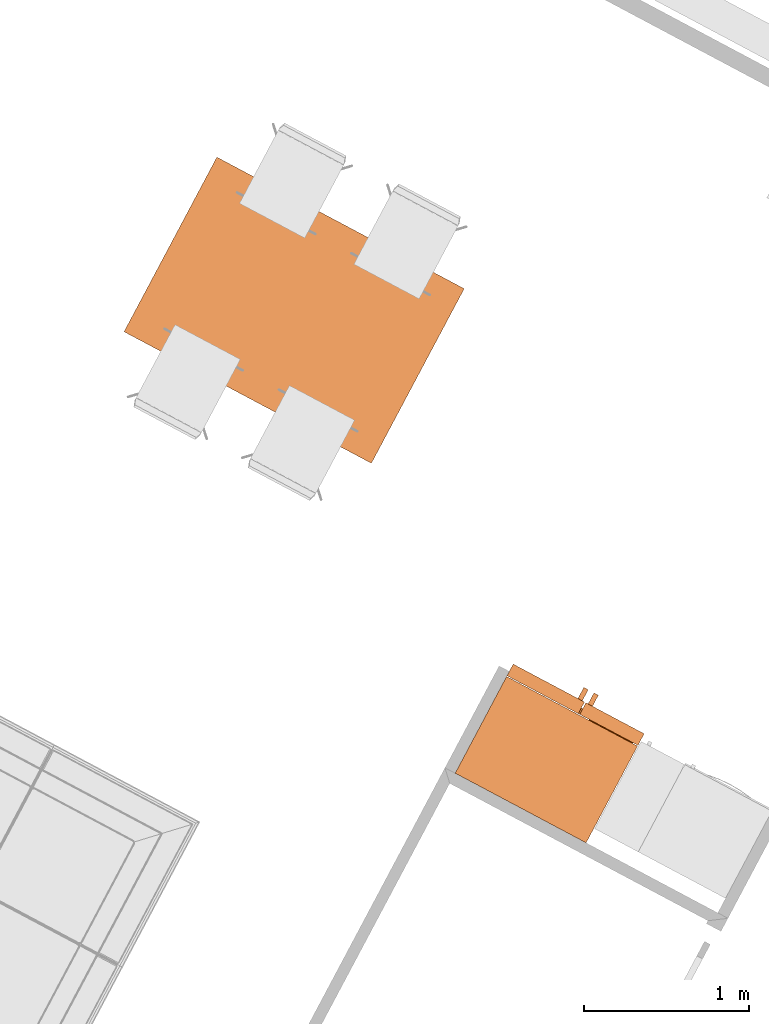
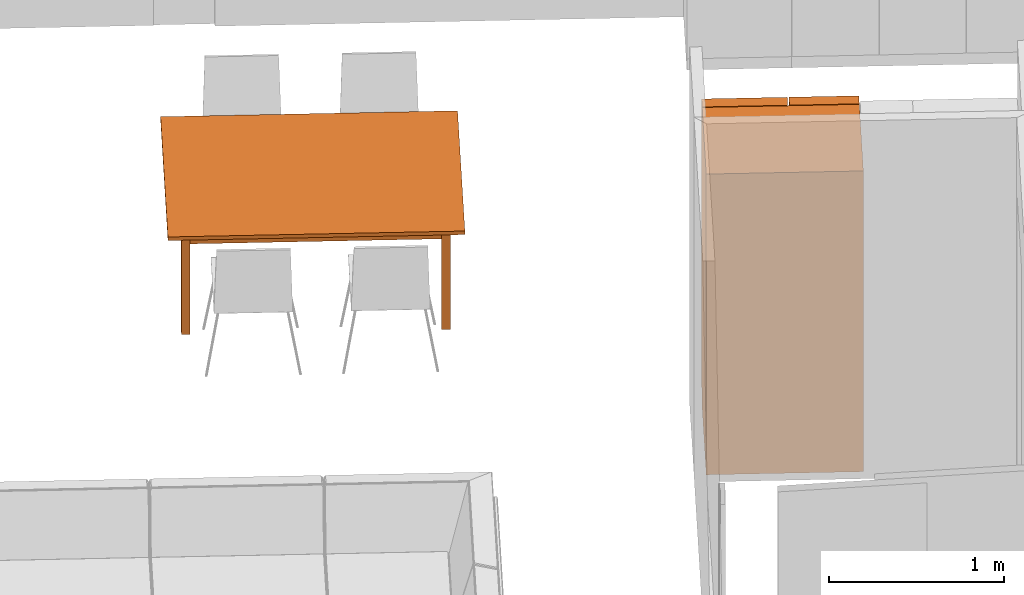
# One storey, part 19 of 27: 2 proxies.
"""IFC2X3 building model written with IfcOpenShell, lengths in metres."""

from ifc_helpers import new_model, entity, si_unit, converted_unit, derived_unit, money_unit, direction, frame, origin_with_axes, place, context, subcontext, project, spatial, faceted_brep, type_object, element, save


model = new_model("IFC2X3")

# Units and contexts
model_context = context("Model", 3, precision=1e-05, world=origin_with_axes(), true_north=direction((0.0, 1.0)))
body_context = subcontext(model_context, "Body", "Model", "MODEL_VIEW")
ifc_project = project(units=[si_unit("LENGTHUNIT", "METRE"), si_unit("AREAUNIT", "SQUARE_METRE"), si_unit("VOLUMEUNIT", "CUBIC_METRE"), converted_unit("PLANEANGLEUNIT", "DEGREE", entity("IfcPlaneAngleMeasure", 0.0174532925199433), si_unit("PLANEANGLEUNIT", "RADIAN"), dimensions=[0, 0, 0, 0, 0, 0, 0]), money_unit("CHF"), converted_unit("TIMEUNIT", "Year", entity("IfcTimeMeasure", 31557600.0), si_unit("TIMEUNIT", "SECOND"), dimensions=[0, 0, 1, 0, 0, 0, 0]), si_unit("MASSUNIT", "GRAM", prefix="KILO"), si_unit("THERMODYNAMICTEMPERATUREUNIT", "DEGREE_CELSIUS"), si_unit("LUMINOUSINTENSITYUNIT", "LUMEN"), si_unit("ENERGYUNIT", "JOULE", prefix="MEGA"), derived_unit("THERMALCONDUCTANCEUNIT", [(si_unit("POWERUNIT", "WATT"), 1), (si_unit("LENGTHUNIT", "METRE"), -1), (si_unit("THERMODYNAMICTEMPERATUREUNIT", "KELVIN"), -1)]), derived_unit("SPECIFICHEATCAPACITYUNIT", [(si_unit("ENERGYUNIT", "JOULE"), 1), (si_unit("MASSUNIT", "GRAM", prefix="KILO"), -1), (si_unit("THERMODYNAMICTEMPERATUREUNIT", "KELVIN"), -1)]), derived_unit("MASSDENSITYUNIT", [(si_unit("MASSUNIT", "GRAM", prefix="KILO"), 1), (si_unit("VOLUMEUNIT", "CUBIC_METRE"), -1)])], contexts=[model_context])

# Site, building, storey
site_placement = place(None, frame((0.0, 0.0, 0.0), z_axis=(0.0, 0.0, 1.0), x_axis=(-0.4694715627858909, -0.8829475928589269, 0.0)))
site = spatial("IfcSite", under=ifc_project, at=site_placement, Name="Site", CompositionType="ELEMENT")
building_placement = place(site_placement, origin_with_axes())
building = spatial("IfcBuilding", under=site, at=building_placement, Name="Bâtiment", CompositionType="ELEMENT")
storey_placement = place(building_placement, origin_with_axes())
storey = spatial("IfcBuildingStorey", under=building, at=storey_placement, Name="RDC", CompositionType="ELEMENT", Elevation=0.0)

# Proxies
building_element_proxy_type_1 = type_object("IfcBuildingElementProxyType", Name="Table salle à manger 01 27", PredefinedType="NOTDEFINED")
proxy_1_placement = place(storey_placement, frame((137.177644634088, -834.7961562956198, 0.0), z_axis=(0.0, 0.0, 1.0), x_axis=(0.0, 1.0, 0.0)))
element("IfcBuildingElementProxy", 1, at=proxy_1_placement, inside=storey, type_object=building_element_proxy_type_1, Name="Obj.-483", context=body_context, shape_type="Brep", body=[
    faceted_brep([(0.13, 0.08, 0.0), (0.08, 0.08, 0.0), (0.08, 0.13, 0.0), (0.13, 0.13, 0.0), (0.13, 0.08, 0.715), (0.08, 0.08, 0.715), (0.08, 0.13, 0.715), (0.13, 0.13, 0.715)], [[[0, 1, 2, 3]], [[1, 0, 4, 5]], [[2, 1, 5, 6]], [[3, 2, 6, 7]], [[0, 3, 7, 4]], [[5, 4, 7, 6]]]),
    faceted_brep([(1.619999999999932, 0.08, 0.0), (1.569999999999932, 0.08, 0.0), (1.569999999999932, 0.13, 0.0), (1.619999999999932, 0.13, 0.0), (1.619999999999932, 0.08, 0.715), (1.569999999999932, 0.08, 0.715), (1.569999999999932, 0.13, 0.715), (1.619999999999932, 0.13, 0.715)], [[[0, 1, 2, 3]], [[1, 0, 4, 5]], [[2, 1, 5, 6]], [[3, 2, 6, 7]], [[0, 3, 7, 4]], [[5, 4, 7, 6]]]),
    faceted_brep([(0.13, 1.070000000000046, 0.0), (0.08, 1.070000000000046, 0.0), (0.08, 1.120000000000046, 0.0), (0.13, 1.120000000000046, 0.0), (0.13, 1.070000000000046, 0.715), (0.08, 1.070000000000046, 0.715), (0.08, 1.120000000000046, 0.715), (0.13, 1.120000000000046, 0.715)], [[[0, 1, 2, 3]], [[1, 0, 4, 5]], [[2, 1, 5, 6]], [[3, 2, 6, 7]], [[0, 3, 7, 4]], [[5, 4, 7, 6]]]),
    faceted_brep([(1.619999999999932, 1.070000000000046, 0.0), (1.569999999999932, 1.070000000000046, 0.0), (1.569999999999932, 1.120000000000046, 0.0), (1.619999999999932, 1.120000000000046, 0.0), (1.619999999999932, 1.070000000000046, 0.715), (1.569999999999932, 1.070000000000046, 0.715), (1.569999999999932, 1.120000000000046, 0.715), (1.619999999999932, 1.120000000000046, 0.715)], [[[0, 1, 2, 3]], [[1, 0, 4, 5]], [[2, 1, 5, 6]], [[3, 2, 6, 7]], [[0, 3, 7, 4]], [[5, 4, 7, 6]]]),
    faceted_brep([(1.699999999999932, 0.0, 0.715), (0.0, 0.0, 0.715), (0.0, 1.200000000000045, 0.715), (1.699999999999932, 1.200000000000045, 0.715), (1.699999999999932, 0.0, 0.74), (0.0, 0.0, 0.74), (0.0, 1.200000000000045, 0.74), (1.699999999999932, 1.200000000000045, 0.74)], [[[0, 1, 2, 3]], [[1, 0, 4, 5]], [[2, 1, 5, 6]], [[3, 2, 6, 7]], [[0, 3, 7, 4]], [[5, 4, 7, 6]]]),
    faceted_brep([(0.13, 0.105, 0.615), (1.569999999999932, 0.105, 0.615), (1.569999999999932, 0.105, 0.715), (0.13, 0.105, 0.715), (0.13, 0.13, 0.615), (0.155, 0.13, 0.615), (0.155, 0.155, 0.615), (1.544999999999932, 0.155, 0.615), (1.544999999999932, 0.13, 0.615), (1.569999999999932, 0.13, 0.615), (1.569999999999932, 0.13, 0.715), (1.544999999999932, 0.13, 0.715), (1.544999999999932, 0.155, 0.715), (0.155, 0.155, 0.715), (0.155, 0.13, 0.715), (0.13, 0.13, 0.715)], [[[0, 1, 2, 3]], [[0, 4, 5, 6, 7, 8, 9, 1]], [[1, 9, 10, 2]], [[3, 2, 10, 11, 12, 13, 14, 15]], [[4, 0, 3, 15]], [[5, 4, 15, 14]], [[6, 5, 14, 13]], [[7, 6, 13, 12]], [[8, 7, 12, 11]], [[9, 8, 11, 10]]]),
    faceted_brep([(0.155, 0.13, 0.615), (0.105, 0.13, 0.615), (0.105, 1.070000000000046, 0.615), (0.155, 1.070000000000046, 0.615), (0.155, 0.13, 0.715), (0.105, 0.13, 0.715), (0.105, 1.070000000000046, 0.715), (0.155, 1.070000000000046, 0.715)], [[[0, 1, 2, 3]], [[1, 0, 4, 5]], [[2, 1, 5, 6]], [[3, 2, 6, 7]], [[0, 3, 7, 4]], [[5, 4, 7, 6]]]),
    faceted_brep([(1.569999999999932, 1.095000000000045, 0.615), (0.1300000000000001, 1.095000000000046, 0.615), (0.1300000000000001, 1.095000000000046, 0.715), (1.569999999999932, 1.095000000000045, 0.715), (1.569999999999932, 1.070000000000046, 0.615), (1.544999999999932, 1.070000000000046, 0.615), (1.544999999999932, 1.045000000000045, 0.615), (0.155, 1.045000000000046, 0.615), (0.155, 1.070000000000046, 0.615), (0.1300000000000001, 1.070000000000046, 0.615), (0.1300000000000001, 1.070000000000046, 0.715), (0.155, 1.070000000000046, 0.715), (0.155, 1.045000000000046, 0.715), (1.544999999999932, 1.045000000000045, 0.715), (1.544999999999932, 1.070000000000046, 0.715), (1.569999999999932, 1.070000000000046, 0.715)], [[[0, 1, 2, 3]], [[0, 4, 5, 6, 7, 8, 9, 1]], [[1, 9, 10, 2]], [[3, 2, 10, 11, 12, 13, 14, 15]], [[4, 0, 3, 15]], [[5, 4, 15, 14]], [[6, 5, 14, 13]], [[7, 6, 13, 12]], [[8, 7, 12, 11]], [[9, 8, 11, 10]]]),
    faceted_brep([(1.544999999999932, 1.070000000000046, 0.615), (1.594999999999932, 1.070000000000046, 0.615), (1.594999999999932, 0.1300000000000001, 0.615), (1.544999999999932, 0.1300000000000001, 0.615), (1.544999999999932, 1.070000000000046, 0.715), (1.594999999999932, 1.070000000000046, 0.715), (1.594999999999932, 0.1300000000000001, 0.715), (1.544999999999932, 0.1300000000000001, 0.715)], [[[0, 1, 2, 3]], [[1, 0, 4, 5]], [[2, 1, 5, 6]], [[3, 2, 6, 7]], [[0, 3, 7, 4]], [[5, 4, 7, 6]]]),
])
building_element_proxy_type_2 = type_object("IfcBuildingElementProxyType", Name="Réfrigérateur 2 portes 27", PredefinedType="NOTDEFINED")
proxy_2_placement = place(storey_placement, frame((137.8495710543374, -830.8645991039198, 0.0), z_axis=(0.0, 0.0, 1.0), x_axis=(0.0, -1.0, 0.0)))
element("IfcBuildingElementProxy", 2, at=proxy_2_placement, inside=storey, type_object=building_element_proxy_type_2, Name="Obj.-482", context=body_context, shape_type="Brep", body=[
    faceted_brep([(0.9, 0.08500000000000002, 0.0), (0.9, 0.08500000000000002, 2.1), (0.0, 0.08500000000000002, 2.1), (0.0, 0.08500000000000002, 0.0), (0.04999999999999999, 0.08500000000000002, 0.13), (0.04999999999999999, 0.08500000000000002, 2.05), (0.85, 0.08500000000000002, 2.05), (0.85, 0.08500000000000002, 0.13), (0.9, 0.75, 0.0), (0.9, 0.75, 2.1), (0.0, 0.75, 2.1), (0.0, 0.75, 0.0), (0.04999999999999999, 0.67, 0.13), (0.04999999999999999, 0.6700000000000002, 2.05), (0.85, 0.6700000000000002, 2.05), (0.85, 0.67, 0.13)], [[[0, 1, 2, 3], [4, 5, 6, 7]], [[8, 9, 1, 0]], [[1, 9, 10, 2]], [[3, 2, 10, 11]], [[11, 8, 0, 3]], [[5, 4, 12, 13]], [[6, 5, 13, 14]], [[7, 6, 14, 15]], [[4, 7, 15, 12]], [[11, 10, 9, 8]], [[14, 13, 12, 15]]]),
    faceted_brep([(0.0, 0.08, 0.1), (0.4, 0.08, 0.1), (0.4, 0.0, 0.1), (0.0, 0.0, 0.1), (0.0, 0.08000000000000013, 2.1), (0.4, 0.08000000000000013, 2.1), (0.03500000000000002, 0.08000000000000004, 0.8), (0.335, 0.08000000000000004, 0.8), (0.335, 0.08000000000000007, 1.2), (0.03500000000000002, 0.08000000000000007, 1.2), (0.4, 0.0, 2.1), (0.0, 0.0, 2.1), (0.03500000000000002, 0.0, 0.8), (0.03500000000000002, 0.0, 1.2), (0.335, 0.0, 1.2), (0.335, 0.0, 0.8)], [[[0, 1, 2, 3]], [[0, 4, 5, 1], [6, 7, 8, 9]], [[1, 5, 10, 2]], [[3, 2, 10, 11], [12, 13, 14, 15]], [[4, 0, 3, 11]], [[5, 4, 11, 10]], [[7, 6, 12, 15]], [[8, 7, 15, 14]], [[9, 8, 14, 13]], [[6, 9, 13, 12]]]),
    faceted_brep([(0.9, 0.0, 0.1), (0.9, 0.08, 0.1), (0.9, 0.08, 2.1), (0.9, 0.0, 2.1), (0.41, 0.0, 0.1), (0.41, 0.08, 0.1), (0.41, 0.08, 2.1), (0.41, 0.0, 2.1)], [[[0, 1, 2, 3]], [[0, 4, 5, 1]], [[1, 5, 6, 2]], [[3, 2, 6, 7]], [[4, 0, 3, 7]], [[5, 4, 7, 6]]]),
    faceted_brep([(0.0, 0.04, 0.0), (0.9, 0.04, 0.0), (0.9, 0.04, 0.1), (0.0, 0.04, 0.1), (0.0, 0.08, 0.0), (0.9, 0.08, 0.0), (0.9, 0.08, 0.1), (0.0, 0.08, 0.1)], [[[0, 1, 2, 3]], [[0, 4, 5, 1]], [[1, 5, 6, 2]], [[3, 2, 6, 7]], [[4, 0, 3, 7]], [[5, 4, 7, 6]]]),
    faceted_brep([(0.03500000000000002, 0.01, 1.2), (0.335, 0.01, 1.2), (0.335, 0.16, 1.2), (0.03500000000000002, 0.16, 1.2), (0.03500000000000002, 0.01000000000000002, 0.8000000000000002), (0.335, 0.01000000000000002, 0.8000000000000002), (0.09500000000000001, 0.01000000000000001, 1.12), (0.275, 0.01000000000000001, 1.12), (0.275, 0.01000000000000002, 0.8800000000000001), (0.09500000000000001, 0.01000000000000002, 0.8800000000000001), (0.335, 0.1600000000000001, 0.8000000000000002), (0.03500000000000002, 0.1600000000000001, 0.8000000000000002), (0.09500000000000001, 0.16, 1.12), (0.09500000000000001, 0.1600000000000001, 0.8800000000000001), (0.275, 0.1600000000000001, 0.8800000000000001), (0.275, 0.16, 1.12)], [[[0, 1, 2, 3]], [[0, 4, 5, 1], [6, 7, 8, 9]], [[1, 5, 10, 2]], [[3, 2, 10, 11], [12, 13, 14, 15]], [[4, 0, 3, 11]], [[5, 4, 11, 10]], [[7, 6, 12, 15]], [[8, 7, 15, 14]], [[9, 8, 14, 13]], [[6, 9, 13, 12]]]),
    faceted_brep([(0.03500000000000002, 0.16, 0.8), (0.335, 0.16, 0.8), (0.335, 0.16, 1.2), (0.03500000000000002, 0.16, 1.2), (0.03500000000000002, 0.161, 0.8), (0.335, 0.161, 0.8), (0.335, 0.161, 1.2), (0.03500000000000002, 0.161, 1.2)], [[[0, 1, 2, 3]], [[0, 4, 5, 1]], [[1, 5, 6, 2]], [[3, 2, 6, 7]], [[4, 0, 3, 7]], [[5, 4, 7, 6]]]),
    faceted_brep([(0.03500000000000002, 0.01, 0.8), (0.335, 0.01, 0.8), (0.335, 0.0, 0.8), (0.03500000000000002, 0.0, 0.8), (0.03500000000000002, 0.01000000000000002, 1.2), (0.335, 0.01000000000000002, 1.2), (0.09500000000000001, 0.01000000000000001, 0.88), (0.275, 0.01000000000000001, 0.88), (0.275, 0.01000000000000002, 1.12), (0.09500000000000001, 0.01000000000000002, 1.12), (0.335, 0.0, 1.2), (0.03500000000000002, 0.0, 1.2), (0.09500000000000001, 0.0, 0.88), (0.09500000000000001, 0.0, 1.12), (0.275, 0.0, 1.12), (0.275, 0.0, 0.88)], [[[0, 1, 2, 3]], [[0, 4, 5, 1], [6, 7, 8, 9]], [[1, 5, 10, 2]], [[3, 2, 10, 11], [12, 13, 14, 15]], [[4, 0, 3, 11]], [[5, 4, 11, 10]], [[7, 6, 12, 15]], [[8, 7, 15, 14]], [[9, 8, 14, 13]], [[6, 9, 13, 12]]]),
    faceted_brep([(0.3549999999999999, 0.0, 1.69604997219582), (0.3549999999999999, -0.0397485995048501, 1.516755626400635), (0.3849999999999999, -0.0397485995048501, 1.516755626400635), (0.3849999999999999, 0.0, 1.69604997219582), (0.355, 0.0, 0.5039500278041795), (0.3549999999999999, -0.03974859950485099, 0.6832443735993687), (0.3549999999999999, -0.06707726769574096, 0.8908262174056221), (0.3549999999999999, -0.07620999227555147, 1.1), (0.3549999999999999, -0.06707726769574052, 1.309173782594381), (0.3549999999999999, 0.0, 1.617580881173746), (0.3549999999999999, -0.0230068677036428, 1.513803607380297), (0.3549999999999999, -0.05014195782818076, 1.307692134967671), (0.3549999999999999, -0.05920999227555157, 1.1), (0.3549999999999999, -0.05014195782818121, 0.8923078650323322), (0.3549999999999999, -0.02300686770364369, 0.6861963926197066), (0.355, 0.0, 0.5824191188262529), (0.3849999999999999, -0.06707726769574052, 1.309173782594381), (0.3849999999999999, -0.07620999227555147, 1.1), (0.385, -0.06707726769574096, 0.8908262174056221), (0.385, -0.03974859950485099, 0.6832443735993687), (0.385, 0.0, 0.5039500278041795), (0.385, 0.0, 0.5824191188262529), (0.385, -0.02300686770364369, 0.6861963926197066), (0.385, -0.05014195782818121, 0.8923078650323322), (0.3849999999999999, -0.05920999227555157, 1.1), (0.3849999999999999, -0.05014195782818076, 1.307692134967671), (0.3849999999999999, -0.0230068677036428, 1.513803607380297), (0.3849999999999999, 0.0, 1.617580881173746)], [[[0, 1, 2, 3]], [[4, 5, 6, 7, 8, 1, 0, 9, 10, 11, 12, 13, 14, 15]], [[1, 8, 16, 2]], [[3, 2, 16, 17, 18, 19, 20, 21, 22, 23, 24, 25, 26, 27]], [[0, 3, 27, 9]], [[5, 4, 20, 19]], [[6, 5, 19, 18]], [[7, 6, 18, 17]], [[8, 7, 17, 16]], [[10, 9, 27, 26]], [[11, 10, 26, 25]], [[12, 11, 25, 24]], [[13, 12, 24, 23]], [[14, 13, 23, 22]], [[15, 14, 22, 21]], [[4, 15, 21, 20]]]),
    faceted_brep([(0.4249999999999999, 0.0, 1.69604997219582), (0.425, -0.0397485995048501, 1.516755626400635), (0.455, -0.0397485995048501, 1.516755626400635), (0.455, 0.0, 1.69604997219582), (0.425, 0.0, 0.5039500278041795), (0.425, -0.03974859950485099, 0.6832443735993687), (0.425, -0.06707726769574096, 0.8908262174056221), (0.425, -0.07620999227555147, 1.1), (0.425, -0.06707726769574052, 1.309173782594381), (0.4249999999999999, 0.0, 1.617580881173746), (0.425, -0.0230068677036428, 1.513803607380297), (0.425, -0.05014195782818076, 1.307692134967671), (0.425, -0.05920999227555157, 1.1), (0.425, -0.05014195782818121, 0.8923078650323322), (0.425, -0.02300686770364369, 0.6861963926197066), (0.425, 0.0, 0.5824191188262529), (0.455, -0.06707726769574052, 1.309173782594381), (0.455, -0.07620999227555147, 1.1), (0.455, -0.06707726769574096, 0.8908262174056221), (0.455, -0.03974859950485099, 0.6832443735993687), (0.455, 0.0, 0.5039500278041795), (0.455, 0.0, 0.5824191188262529), (0.455, -0.02300686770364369, 0.6861963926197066), (0.455, -0.05014195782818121, 0.8923078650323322), (0.455, -0.05920999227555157, 1.1), (0.455, -0.05014195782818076, 1.307692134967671), (0.455, -0.0230068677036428, 1.513803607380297), (0.455, 0.0, 1.617580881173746)], [[[0, 1, 2, 3]], [[4, 5, 6, 7, 8, 1, 0, 9, 10, 11, 12, 13, 14, 15]], [[1, 8, 16, 2]], [[3, 2, 16, 17, 18, 19, 20, 21, 22, 23, 24, 25, 26, 27]], [[0, 3, 27, 9]], [[5, 4, 20, 19]], [[6, 5, 19, 18]], [[7, 6, 18, 17]], [[8, 7, 17, 16]], [[10, 9, 27, 26]], [[11, 10, 26, 25]], [[12, 11, 25, 24]], [[13, 12, 24, 23]], [[14, 13, 23, 22]], [[15, 14, 22, 21]], [[4, 15, 21, 20]]]),
])

save(model, "model.ifc")
